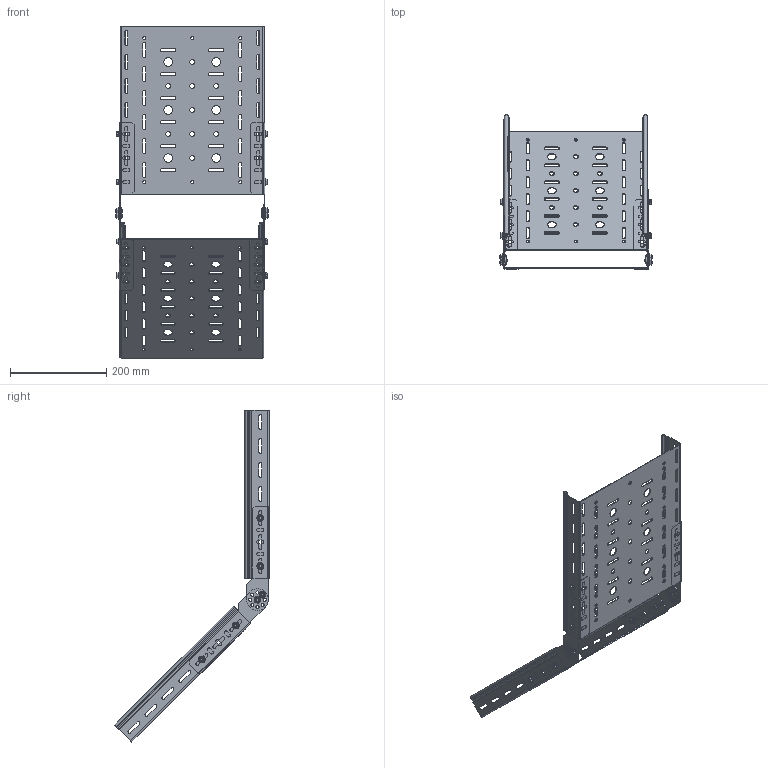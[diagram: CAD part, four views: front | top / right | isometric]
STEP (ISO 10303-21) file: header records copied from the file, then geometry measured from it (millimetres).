
FILE_DESCRIPTION (( 'STEP AP214' ), '1' );
FILE_NAME ('ﾑﾋﾓﾘ+ﾓﾋ(ﾏ)_50.STEP', '2016-10-06T20:55:03', ( '' ), ( '' ), 'SwSTEP 2.0', 'SolidWorks 2016', '' );
FILE_SCHEMA (( 'AUTOMOTIVE_DESIGN' ));
Length unit declared in the file: millimetre
Products named in the file (6): ﾑﾋﾓﾘ+ﾓﾋ(ﾏ)_50; hex flange nut_din_Hexagon Flange Nut DIN 6923 - M6 - N; pan head cross recess screw_din_ISO 7045 - M6 x 10 - Z --- 10N; 捀衯_50_谾謤; 083815-083830 捀衯  蚎; ÓË(Ï)-300õÍõ550_3000.1,5.300.50
Assembly tree (30 placements, depth 2):
  ﾑﾋﾓﾘ+ﾓﾋ(ﾏ)_50
    ÓË(Ï)-300õÍõ550_3000.1,5.300.50  x2
    083815-083830 捀衯  蚎  x2
    捀衯_50_谾謤  x2
    pan head cross recess screw_din_ISO 7045 - M6 x 10 - Z --- 10N  x12
    hex flange nut_din_Hexagon Flange Nut DIN 6923 - M6 - N  x12
Bounding box: 319 x 322.69 x 691.28 mm (x, y, z)
Volume: 458123.8 mm3; surface area: 657103.3 mm2
Topology: 30 solids, 30 shells, 1784 faces, 4644 edges, 2908 vertices
Faces by surface type: plane 760, cylinder 640, cone 216, torus 72, bspline 72, sphere 24
Entity records: 19070 total; most frequent: CARTESIAN_POINT 3452, DIRECTION 3302, ORIENTED_EDGE 3100, EDGE_CURVE 1550, AXIS2_PLACEMENT_3D 1203, VERTEX_POINT 999, VECTOR 896, LINE 896
